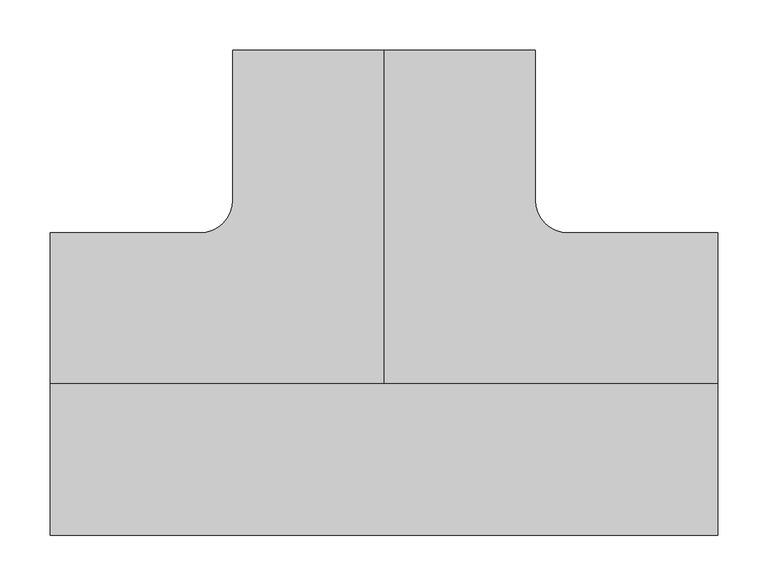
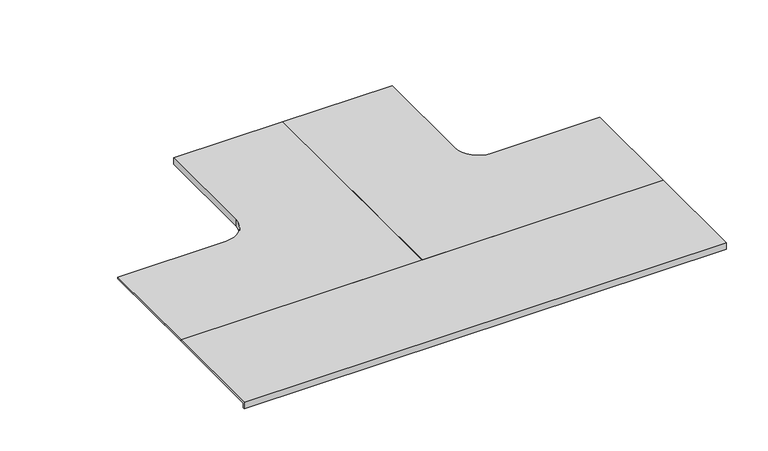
"""IFC4 building model written with IfcOpenShell, lengths in millimetres: cable carrier fitting geometry, CCT_Hyperline_FBTR-TEE-CVR Крышка на ответвитель Т-образный пластиковый : Крышка на ответвитель Т-образный пластиковый."""

from ifc_helpers import new_model, si_unit, frame, origin, place, context, project, spatial, polyline, circle_curve, outline, extrude, source, transform, mapped, element, save
from ifc_brep_helpers import plane_surface, cylinder_surface, revolved_surface, advanced_brep


def cable_carrier_fitting_09b9b2bc(model_context):
    return source(origin(), model_context, "Body", "SolidModel", [
        extrude(outline(polyline([(-150.54, 52.54), (0.0, 52.54), (0.0, 50.0), (-148.0, 50.0), (-148.0, 43.0), (-150.54, 43.0), (-150.54, 52.54)])), frame((-332.0, 0.0, 0.0), z_axis=(1.0, 0.0, 0.0), x_axis=(0.0, 1.0, 0.0)), (0.0, 0.0, 1.0), 664.0),
        advanced_brep(
        [(332.0, 150.54, 52.54), (332.0, 0.0, 52.54), (332.0, 0.0, 50.0), (332.0, 150.54, 50.0), (183.0, 148.0, 50.0), (183.0, 148.0, 43.0), (312.0, 148.0, 43.0), (312.0, 148.0, 50.0), (148.0, 183.0, 43.0), (148.0, 332.0, 43.0), (150.54, 332.0, 43.0), (150.54, 183.0, 43.0), (183.0, 150.54, 43.0), (312.0, 150.54, 43.0), (183.0, 150.54, 52.54), (312.0, 150.54, 50.0), (148.0, 183.0, 50.0), (150.54, 183.0, 52.54), (0.0, 332.0, 52.54), (150.54, 332.0, 52.54), (148.0, 332.0, 50.0), (0.0, 332.0, 50.0), (0.0, 0.0, 52.54), (0.0, 0.0, 50.0)],
        [
            (0, 1),
            (1, 2),
            (2, 3),
            (3, 0),
            (4, 5),
            (5, 6),
            (6, 7),
            (7, 4),
            (5, 8, circle_curve(frame((183.0, 183.0, 43.0), z_axis=(0.0, 0.0, -1.0), x_axis=(0.0, -1.0, 0.0)), 35.0)),
            (8, 9),
            (9, 10),
            (10, 11),
            (11, 12, circle_curve(frame((183.0, 183.0, 43.0), z_axis=(0.0, 0.0, 1.0), x_axis=(0.0, -1.0, 0.0)), 32.46)),
            (12, 13),
            (13, 6),
            (14, 0),
            (3, 15),
            (15, 13),
            (12, 14),
            (4, 16, circle_curve(frame((183.0, 183.0, 50.0), z_axis=(0.0, 0.0, -1.0), x_axis=(0.0, -1.0, 0.0)), 35.0)),
            (16, 8),
            (17, 14, circle_curve(frame((183.0, 183.0, 52.54), z_axis=(0.0, 0.0, 1.0), x_axis=(0.0, -1.0, 0.0)), 32.46)),
            (11, 17),
            (18, 19),
            (19, 10),
            (9, 20),
            (20, 21),
            (21, 18),
            (16, 20),
            (19, 17),
            (18, 22),
            (22, 1),
            (22, 23),
            (23, 2),
            (23, 21),
            (7, 15),
        ],
        [
            plane_surface(frame((332.0, 148.0, 25.0), z_axis=(1.0, 0.0, 0.0), x_axis=(0.0, 0.0, 1.0))),
            plane_surface(frame((332.0, 148.0, 50.0), z_axis=(0.0, -1.0, 0.0), x_axis=(-1.0, 0.0, 0.0))),
            plane_surface(frame((332.0, 148.0, 43.0), z_axis=(0.0, 0.0, -1.0), x_axis=(-1.0, 0.0, 0.0))),
            plane_surface(frame((332.0, 150.54, 43.0), z_axis=(0.0, 1.0, 0.0), x_axis=(-1.0, 0.0, 0.0))),
            cylinder_surface(frame((183.0, 183.0, 25.0), z_axis=(0.0, 0.0, -1.0), x_axis=(0.0, -1.0, 0.0)), 35.0),
            revolved_surface(polyline([(183.0, 150.54, 43.0), (183.0, 150.54, 52.54)]), (183.0, 183.0, 25.0), (0.0, 0.0, -1.0)),
            plane_surface(frame((148.0, 332.0, 25.0), z_axis=(0.0, 1.0, 0.0), x_axis=(0.0, 0.0, 1.0))),
            plane_surface(frame((148.0, 183.0, 50.0), z_axis=(-1.0, 0.0, 0.0), x_axis=(0.0, 1.0, 0.0))),
            plane_surface(frame((150.54, 183.0, 43.0), z_axis=(1.0, 0.0, 0.0), x_axis=(0.0, 1.0, 0.0))),
            plane_surface(frame((332.0, 150.54, 52.54), z_axis=(0.0, 0.0, 1.0), x_axis=(-1.0, 0.0, 0.0))),
            plane_surface(frame((332.0, 0.0, 52.54), z_axis=(0.0, -1.0, 0.0), x_axis=(-1.0, 0.0, 0.0))),
            plane_surface(frame((332.0, 0.0, 50.0), z_axis=(0.0, 0.0, -1.0), x_axis=(-1.0, 0.0, 0.0))),
            plane_surface(frame((0.0, 183.0, 52.54), z_axis=(-1.0, 0.0, 0.0), x_axis=(0.0, 1.0, 0.0))),
            plane_surface(frame((312.0, 150.54, 43.0), z_axis=(1.0, 0.0, 0.0), x_axis=(0.0, -1.0, 0.0))),
        ],
        [
            (0, [[1, 2, 3, 4]]),
            (1, [[5, 6, 7, 8]]),
            (2, [[9, 10, 11, 12, 13, 14, 15, -6]]),
            (3, [[16, -4, 17, 18, -14, 19]]),
            (4, [[20, 21, -9, -5]]),
            (5, [[22, -19, -13, 23]]),
            (6, [[24, 25, -11, 26, 27, 28]]),
            (7, [[29, -26, -10, -21]]),
            (8, [[30, -23, -12, -25]]),
            (9, [[-1, -16, -22, -30, -24, 31, 32]]),
            (10, [[-2, -32, 33, 34]]),
            (11, [[-34, 35, -27, -29, -20, -8, 36, -17, -3]]),
            (12, [[-31, -28, -35, -33]]),
            (13, [[-36, -7, -15, -18]]),
        ],
    ),
        advanced_brep(
        [(-332.0, 150.54, 52.54), (-332.0, 150.54, 50.0), (-332.0, 0.0, 50.0), (-332.0, 0.0, 52.54), (-183.0, 148.0, 50.0), (-312.0, 148.0, 50.0), (-312.0, 148.0, 43.0), (-183.0, 148.0, 43.0), (-312.0, 150.54, 43.0), (-183.0, 150.54, 43.0), (-150.54, 183.0, 43.0), (-150.54, 332.0, 43.0), (-148.0, 332.0, 43.0), (-148.0, 183.0, 43.0), (-183.0, 150.54, 52.54), (-312.0, 150.54, 50.0), (-148.0, 183.0, 50.0), (-150.54, 183.0, 52.54), (0.0, 332.0, 52.54), (0.0, 332.0, 50.0), (-148.0, 332.0, 50.0), (-150.54, 332.0, 52.54), (0.0, 0.0, 52.54), (0.0, 0.0, 50.0)],
        [
            (0, 1),
            (1, 2),
            (2, 3),
            (3, 0),
            (4, 5),
            (5, 6),
            (6, 7),
            (7, 4),
            (6, 8),
            (8, 9),
            (9, 10, circle_curve(frame((-183.0, 183.0, 43.0), z_axis=(0.0, 0.0, 1.0), x_axis=(0.0, -1.0, 0.0)), 32.46)),
            (10, 11),
            (11, 12),
            (12, 13),
            (13, 7, circle_curve(frame((-183.0, 183.0, 43.0), z_axis=(0.0, 0.0, -1.0), x_axis=(0.0, -1.0, 0.0)), 35.0)),
            (14, 9),
            (8, 15),
            (15, 1),
            (0, 14),
            (13, 16),
            (16, 4, circle_curve(frame((-183.0, 183.0, 50.0), z_axis=(0.0, 0.0, -1.0), x_axis=(0.0, -1.0, 0.0)), 35.0)),
            (17, 10),
            (14, 17, circle_curve(frame((-183.0, 183.0, 52.54), z_axis=(0.0, 0.0, 1.0), x_axis=(0.0, -1.0, 0.0)), 32.46)),
            (18, 19),
            (19, 20),
            (20, 12),
            (11, 21),
            (21, 18),
            (20, 16),
            (17, 21),
            (3, 22),
            (22, 18),
            (2, 23),
            (23, 22),
            (15, 5),
            (19, 23),
        ],
        [
            plane_surface(frame((-332.0, 148.0, 25.0), z_axis=(-1.0, 0.0, 0.0), x_axis=(0.0, 0.0, 1.0))),
            plane_surface(frame((-332.0, 148.0, 50.0), z_axis=(0.0, -1.0, 0.0), x_axis=(1.0, 0.0, 0.0))),
            plane_surface(frame((-332.0, 148.0, 43.0), z_axis=(0.0, 0.0, -1.0), x_axis=(1.0, 0.0, 0.0))),
            plane_surface(frame((-332.0, 150.54, 43.0), z_axis=(0.0, 1.0, 0.0), x_axis=(1.0, 0.0, 0.0))),
            cylinder_surface(frame((-183.0, 183.0, 25.0), z_axis=(0.0, 0.0, -1.0), x_axis=(0.0, -1.0, 0.0)), 35.0),
            revolved_surface(polyline([(-183.0, 150.54, 43.0), (-183.0, 150.54, 52.54)]), (-183.0, 183.0, 25.0), (0.0, 0.0, -1.0)),
            plane_surface(frame((-148.0, 332.0, 25.0), z_axis=(0.0, 1.0, 0.0), x_axis=(0.0, 0.0, 1.0))),
            plane_surface(frame((-148.0, 183.0, 50.0), z_axis=(1.0, 0.0, 0.0), x_axis=(0.0, 1.0, 0.0))),
            plane_surface(frame((-150.54, 183.0, 43.0), z_axis=(-1.0, 0.0, 0.0), x_axis=(0.0, 1.0, 0.0))),
            plane_surface(frame((-332.0, 150.54, 52.54), z_axis=(0.0, 0.0, 1.0), x_axis=(1.0, 0.0, 0.0))),
            plane_surface(frame((-332.0, 0.0, 52.54), z_axis=(0.0, -1.0, 0.0), x_axis=(1.0, 0.0, 0.0))),
            plane_surface(frame((-332.0, 0.0, 50.0), z_axis=(0.0, 0.0, -1.0), x_axis=(1.0, 0.0, 0.0))),
            plane_surface(frame((0.0, 183.0, 52.54), z_axis=(1.0, 0.0, 0.0), x_axis=(0.0, 1.0, 0.0))),
            plane_surface(frame((-312.0, 150.54, 43.0), z_axis=(-1.0, 0.0, 0.0), x_axis=(0.0, -1.0, 0.0))),
        ],
        [
            (0, [[1, 2, 3, 4]]),
            (1, [[5, 6, 7, 8]]),
            (2, [[-7, 9, 10, 11, 12, 13, 14, 15]]),
            (3, [[16, -10, 17, 18, -1, 19]]),
            (4, [[-8, -15, 20, 21]]),
            (5, [[22, -11, -16, 23]]),
            (6, [[24, 25, 26, -13, 27, 28]]),
            (7, [[-20, -14, -26, 29]]),
            (8, [[-27, -12, -22, 30]]),
            (9, [[31, 32, -28, -30, -23, -19, -4]]),
            (10, [[33, 34, -31, -3]]),
            (11, [[-2, -18, 35, -5, -21, -29, -25, 36, -33]]),
            (12, [[-34, -36, -24, -32]]),
            (13, [[-17, -9, -6, -35]]),
        ],
    ),
    ])


if __name__ == "__main__":
    model = new_model("IFC4")
    model_context = context("Model", 3, world=origin())
    ifc_project = project(units=[si_unit("LENGTHUNIT", "METRE", prefix="MILLI")], contexts=[model_context])
    site = spatial("IfcSite", under=ifc_project)
    building = spatial("IfcBuilding", under=site)
    placement = place(None, origin())
    cable_carrier_fitting_shape = cable_carrier_fitting_09b9b2bc(model_context)
    element("IfcCableCarrierFitting", 1, ObjectType="CCT_Hyperline_FBTR-TEE-CVR Крышка на ответвитель Т-образный пластиковый : Крышка на ответвитель Т-образный пластиковый", at=placement, inside=building, context=model_context, shape_type="MappedRepresentation", body=[
        mapped(cable_carrier_fitting_shape, transform((0.0, 0.0, 0.0), x_axis=(1.0, 0.0, 0.0), y_axis=(0.0, 1.0, 0.0), z_axis=(0.0, 0.0, 1.0))),
    ])
    save(model, "model.ifc")
